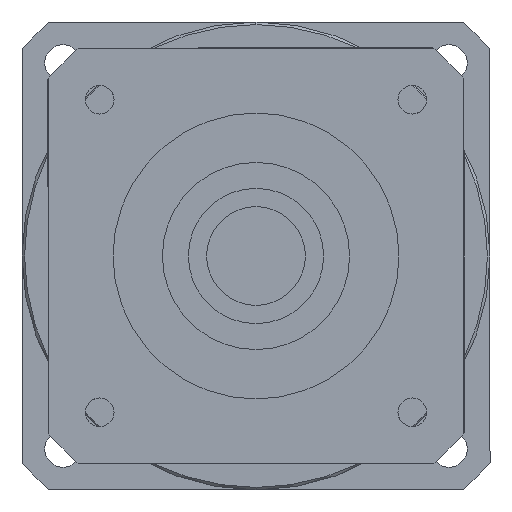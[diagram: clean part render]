
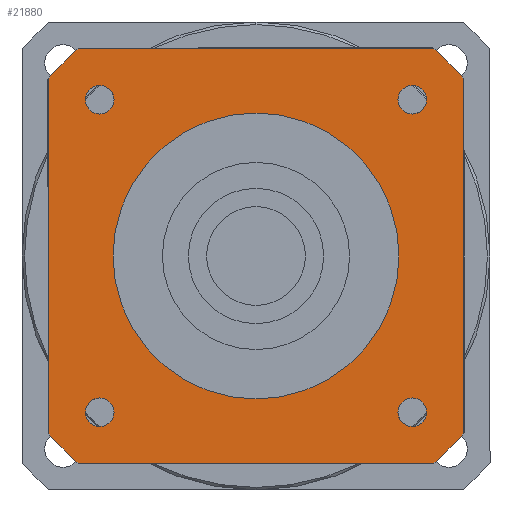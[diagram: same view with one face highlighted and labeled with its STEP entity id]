
A CAD part, left-side view. The second image highlights one B-rep face of the part: STEP entity #21880.
In plain terms, the highlighted planar face has unit normal (-1, 0, 0) as drawn and (0, 0, -1) by its records, which use the part's own axes.
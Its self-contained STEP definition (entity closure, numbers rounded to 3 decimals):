
#16160=CARTESIAN_POINT('',(34.004,40.,-117.));
#16170=VERTEX_POINT('',#16160);
#16200=CARTESIAN_POINT('',(0.,0.,
-117.));
#16210=DIRECTION('',(0.,0.,1.));
#16220=DIRECTION('',(0.,-1.,0.));
#16230=AXIS2_PLACEMENT_3D('',#16200,#16210,#16220);
#16240=CIRCLE('',#16230,52.5);
#16250=CARTESIAN_POINT('',(40.,34.004,-117.));
#16260=VERTEX_POINT('',#16250);
#16270=EDGE_CURVE('',#16260,#16170,#16240,.T.);
#16580=CARTESIAN_POINT('',(-40.,34.004,-117.));
#16590=VERTEX_POINT('',#16580);
#16840=CARTESIAN_POINT('',(-40.,-34.004,-117.));
#16850=VERTEX_POINT('',#16840);
#16880=CARTESIAN_POINT('',(-40.,40.,-117.));
#16890=DIRECTION('',(0.,-1.,0.));
#16900=VECTOR('',#16890,1000.);
#16910=LINE('',#16880,#16900);
#16920=EDGE_CURVE('',#16590,#16850,#16910,.T.);
#19160=CARTESIAN_POINT('',(-34.004,-40.,-117.));
#19170=VERTEX_POINT('',#19160);
#19200=CARTESIAN_POINT('',(0.,0.,
-117.));
#19210=DIRECTION('',(0.,0.,1.));
#19220=DIRECTION('',(0.,-1.,0.));
#19230=AXIS2_PLACEMENT_3D('',#19200,#19210,#19220);
#19240=CIRCLE('',#19230,52.5);
#19250=EDGE_CURVE('',#16850,#19170,#19240,.T.);
#19700=CARTESIAN_POINT('',(34.004,-40.,-117.));
#19710=VERTEX_POINT('',#19700);
#19790=CARTESIAN_POINT('',(40.,-34.004,-117.));
#19800=VERTEX_POINT('',#19790);
#19830=CARTESIAN_POINT('',(0.,0.,
-117.));
#19840=DIRECTION('',(0.,0.,1.));
#19850=DIRECTION('',(0.,-1.,0.));
#19860=AXIS2_PLACEMENT_3D('',#19830,#19840,#19850);
#19870=CIRCLE('',#19860,52.5);
#19880=EDGE_CURVE('',#19710,#19800,#19870,.T.);
#20140=CARTESIAN_POINT('',(-34.004,40.,-117.));
#20150=VERTEX_POINT('',#20140);
#20180=CARTESIAN_POINT('',(40.,40.,-117.));
#20190=DIRECTION('',(-1.,0.,0.));
#20200=VECTOR('',#20190,1000.);
#20210=LINE('',#20180,#20200);
#20220=EDGE_CURVE('',#16170,#20150,#20210,.T.);
#20580=CARTESIAN_POINT('',(0.,0.,
-117.));
#20590=DIRECTION('',(0.,0.,1.));
#20600=DIRECTION('',(0.,-1.,0.));
#20610=AXIS2_PLACEMENT_3D('',#20580,#20590,#20600);
#20620=CIRCLE('',#20610,52.5);
#20630=EDGE_CURVE('',#20150,#16590,#20620,.T.);
#20680=CARTESIAN_POINT('',(-40.,40.,-117.));
#20690=DIRECTION('',(0.,0.,1.));
#20700=DIRECTION('',(-1.,0.,0.));
#20710=AXIS2_PLACEMENT_3D('',#20680,#20690,#20700);
#20720=PLANE('',#20710);
#20730=CARTESIAN_POINT('',(30.052,-30.052,-117.));
#20740=DIRECTION('',(0.,0.,-1.));
#20750=DIRECTION('',(1.,0.,0.));
#20760=AXIS2_PLACEMENT_3D('',#20730,#20740,#20750);
#20770=CIRCLE('',#20760,2.75);
#20780=CARTESIAN_POINT('',(32.802,-30.052,-117.));
#20790=VERTEX_POINT('',#20780);
#20800=CARTESIAN_POINT('',(30.052,-32.802,-117.));
#20810=VERTEX_POINT('',#20800);
#20820=EDGE_CURVE('',#20790,#20810,#20770,.T.);
#20830=ORIENTED_EDGE('',*,*,#20820,.F.);
#20840=CARTESIAN_POINT('',(30.052,-27.302,-117.));
#20850=VERTEX_POINT('',#20840);
#20860=EDGE_CURVE('',#20810,#20850,#20770,.T.);
#20870=ORIENTED_EDGE('',*,*,#20860,.F.);
#20880=EDGE_CURVE('',#20850,#20790,#20770,.T.);
#20890=ORIENTED_EDGE('',*,*,#20880,.F.);
#20900=EDGE_LOOP('',(#20890,#20870,#20830));
#20910=FACE_BOUND('',#20900,.T.);
#20920=CARTESIAN_POINT('',(30.052,30.052,-117.));
#20930=DIRECTION('',(0.,0.,-1.));
#20940=DIRECTION('',(0.,1.,0.));
#20950=AXIS2_PLACEMENT_3D('',#20920,#20930,#20940);
#20960=CIRCLE('',#20950,2.75);
#20970=CARTESIAN_POINT('',(30.052,32.802,-117.));
#20980=VERTEX_POINT('',#20970);
#20990=CARTESIAN_POINT('',(32.802,30.052,-117.));
#21000=VERTEX_POINT('',#20990);
#21010=EDGE_CURVE('',#20980,#21000,#20960,.T.);
#21020=ORIENTED_EDGE('',*,*,#21010,.F.);
#21030=CARTESIAN_POINT('',(27.302,30.052,-117.));
#21040=VERTEX_POINT('',#21030);
#21050=EDGE_CURVE('',#21000,#21040,#20960,.T.);
#21060=ORIENTED_EDGE('',*,*,#21050,.F.);
#21070=EDGE_CURVE('',#21040,#20980,#20960,.T.);
#21080=ORIENTED_EDGE('',*,*,#21070,.F.);
#21090=EDGE_LOOP('',(#21080,#21060,#21020));
#21100=FACE_BOUND('',#21090,.T.);
#21110=CARTESIAN_POINT('',(-30.052,30.052,-117.));
#21120=DIRECTION('',(0.,0.,-1.));
#21130=DIRECTION('',(-1.,0.,0.));
#21140=AXIS2_PLACEMENT_3D('',#21110,#21120,#21130);
#21150=CIRCLE('',#21140,2.75);
#21160=CARTESIAN_POINT('',(-32.802,30.052,-117.));
#21170=VERTEX_POINT('',#21160);
#21180=CARTESIAN_POINT('',(-30.052,32.802,-117.));
#21190=VERTEX_POINT('',#21180);
#21200=EDGE_CURVE('',#21170,#21190,#21150,.T.);
#21210=ORIENTED_EDGE('',*,*,#21200,.F.);
#21220=CARTESIAN_POINT('',(-30.052,27.302,-117.));
#21230=VERTEX_POINT('',#21220);
#21240=EDGE_CURVE('',#21190,#21230,#21150,.T.);
#21250=ORIENTED_EDGE('',*,*,#21240,.F.);
#21260=EDGE_CURVE('',#21230,#21170,#21150,.T.);
#21270=ORIENTED_EDGE('',*,*,#21260,.F.);
#21280=EDGE_LOOP('',(#21270,#21250,#21210));
#21290=FACE_BOUND('',#21280,.T.);
#21300=CARTESIAN_POINT('',(-30.052,-30.052,-117.));
#21310=DIRECTION('',(0.,0.,-1.));
#21320=DIRECTION('',(0.,-1.,0.));
#21330=AXIS2_PLACEMENT_3D('',#21300,#21310,#21320);
#21340=CIRCLE('',#21330,2.75);
#21350=CARTESIAN_POINT('',(-30.052,-32.802,-117.));
#21360=VERTEX_POINT('',#21350);
#21370=CARTESIAN_POINT('',(-32.802,-30.052,-117.));
#21380=VERTEX_POINT('',#21370);
#21390=EDGE_CURVE('',#21360,#21380,#21340,.T.);
#21400=ORIENTED_EDGE('',*,*,#21390,.F.);
#21410=CARTESIAN_POINT('',(-27.302,-30.052,-117.));
#21420=VERTEX_POINT('',#21410);
#21430=EDGE_CURVE('',#21380,#21420,#21340,.T.);
#21440=ORIENTED_EDGE('',*,*,#21430,.F.);
#21450=EDGE_CURVE('',#21420,#21360,#21340,.T.);
#21460=ORIENTED_EDGE('',*,*,#21450,.F.);
#21470=EDGE_LOOP('',(#21460,#21440,#21400));
#21480=FACE_BOUND('',#21470,.T.);
#21490=ORIENTED_EDGE('',*,*,#19250,.F.);
#21500=CARTESIAN_POINT('',(-40.,-40.,-117.));
#21510=DIRECTION('',(1.,0.,0.));
#21520=VECTOR('',#21510,1000.);
#21530=LINE('',#21500,#21520);
#21540=EDGE_CURVE('',#19170,#19710,#21530,.T.);
#21550=ORIENTED_EDGE('',*,*,#21540,.F.);
#21560=ORIENTED_EDGE('',*,*,#19880,.F.);
#21570=CARTESIAN_POINT('',(40.,-40.,-117.));
#21580=DIRECTION('',(0.,1.,0.));
#21590=VECTOR('',#21580,1000.);
#21600=LINE('',#21570,#21590);
#21610=EDGE_CURVE('',#19800,#16260,#21600,.T.);
#21620=ORIENTED_EDGE('',*,*,#21610,.F.);
#21630=ORIENTED_EDGE('',*,*,#16270,.F.);
#21640=ORIENTED_EDGE('',*,*,#20220,.F.);
#21650=ORIENTED_EDGE('',*,*,#20630,.F.);
#21660=ORIENTED_EDGE('',*,*,#16920,.F.);
#21670=EDGE_LOOP('',(#21660,#21650,#21640,#21630,#21620,#21560,#21550,
#21490));
#21680=FACE_OUTER_BOUND('',#21670,.T.);
#21690=CARTESIAN_POINT('',(0.,0.,
-117.));
#21700=DIRECTION('',(0.,0.,1.));
#21710=DIRECTION('',(0.,-1.,0.));
#21720=AXIS2_PLACEMENT_3D('',#21690,#21700,#21710);
#21730=CIRCLE('',#21720,27.5);
#21740=CARTESIAN_POINT('',(27.5,0.,-117.));
#21750=VERTEX_POINT('',#21740);
#21760=CARTESIAN_POINT('',(-27.5,0.,-117.));
#21770=VERTEX_POINT('',#21760);
#21780=EDGE_CURVE('',#21750,#21770,#21730,.T.);
#21790=ORIENTED_EDGE('',*,*,#21780,.T.);
#21800=CARTESIAN_POINT('',(0.,-27.5,-117.));
#21810=VERTEX_POINT('',#21800);
#21820=EDGE_CURVE('',#21810,#21750,#21730,.T.);
#21830=ORIENTED_EDGE('',*,*,#21820,.T.);
#21840=EDGE_CURVE('',#21770,#21810,#21730,.T.);
#21850=ORIENTED_EDGE('',*,*,#21840,.T.);
#21860=EDGE_LOOP('',(#21850,#21830,#21790));
#21870=FACE_BOUND('',#21860,.T.);
#21880=ADVANCED_FACE('',(#20910,#21100,#21290,#21480,#21680,#21870),
#20720,.F.);
